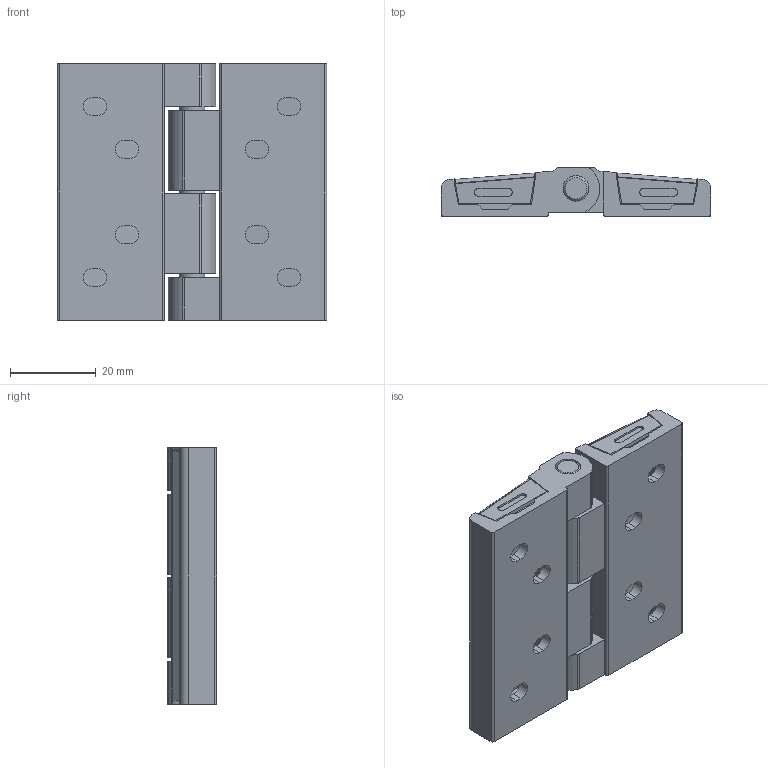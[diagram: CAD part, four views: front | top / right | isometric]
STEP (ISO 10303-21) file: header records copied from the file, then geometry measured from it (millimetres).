
FILE_DESCRIPTION(/* description */ ('STEP AP203'),/* implementation_level */ '2;1');
FILE_NAME(/* name */ 'HFR67-63',/* time_stamp */ '2023-11-22T04:36:52+01:00',/* author */ ('License CC BY-ND 4.0'),/* organization */ ('CADENAS'),/* preprocessor_version */ 'ST-DEVELOPER v19.3',/* originating_system */ 'PARTsolutions',/* authorisation */ ' ');
FILE_SCHEMA (('CONFIG_CONTROL_DESIGN'));
Length unit declared in the file: millimetre
Products named in the file (4): HFR67-63; HFR67-63-003; HFR67-63-002; HFR67-63-001
Assembly tree (5 placements, depth 2):
  HFR67-63
    HFR67-63-003
    HFR67-63-002  x2
    HFR67-63-001  x2
Bounding box: 63 x 11.5 x 60 mm (x, y, z)
Volume: 23434.1 mm3; surface area: 20963.3 mm2
Topology: 5 solids, 5 shells, 251 faces, 677 edges, 450 vertices
Faces by surface type: plane 166, cylinder 83, cone 2
Full cylindrical faces by diameter (mm): 6 x5
Entity records: 4098 total; most frequent: CARTESIAN_POINT 694, DIRECTION 693, ORIENTED_EDGE 670, EDGE_CURVE 335, LINE 245, VECTOR 245, VERTEX_POINT 225, AXIS2_PLACEMENT_3D 224
